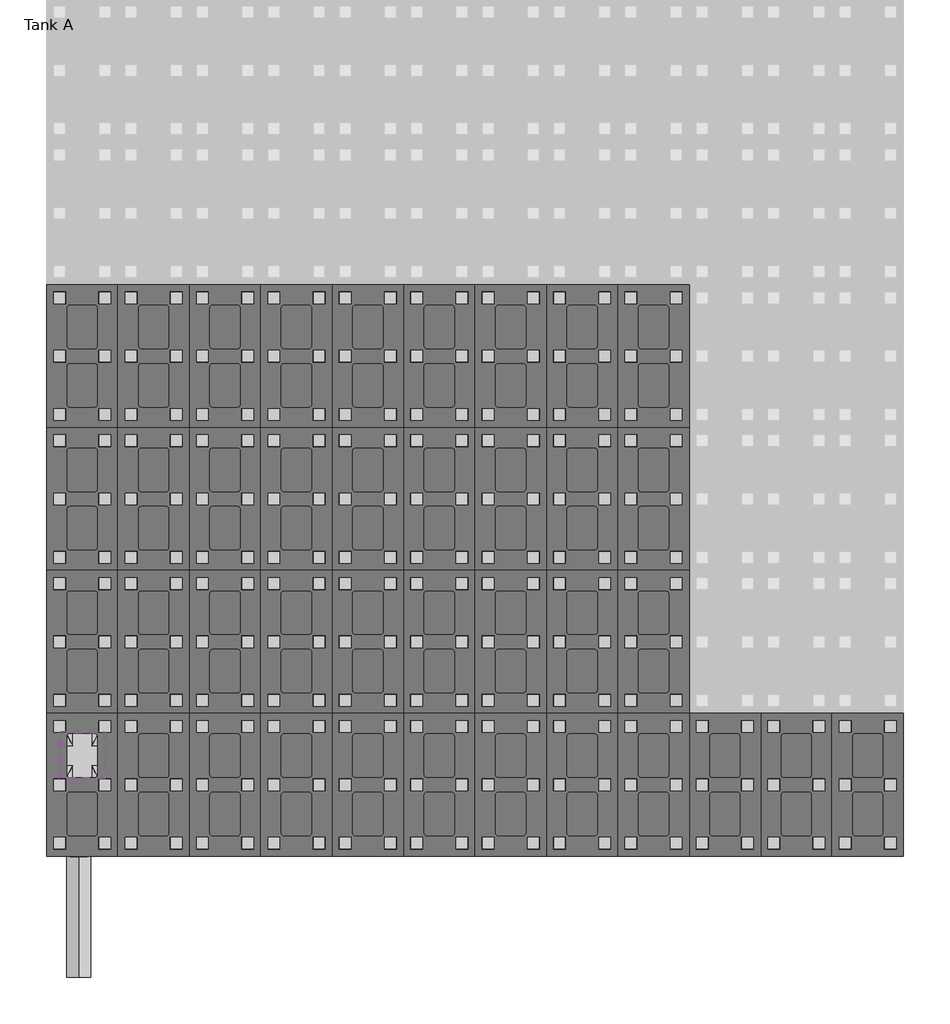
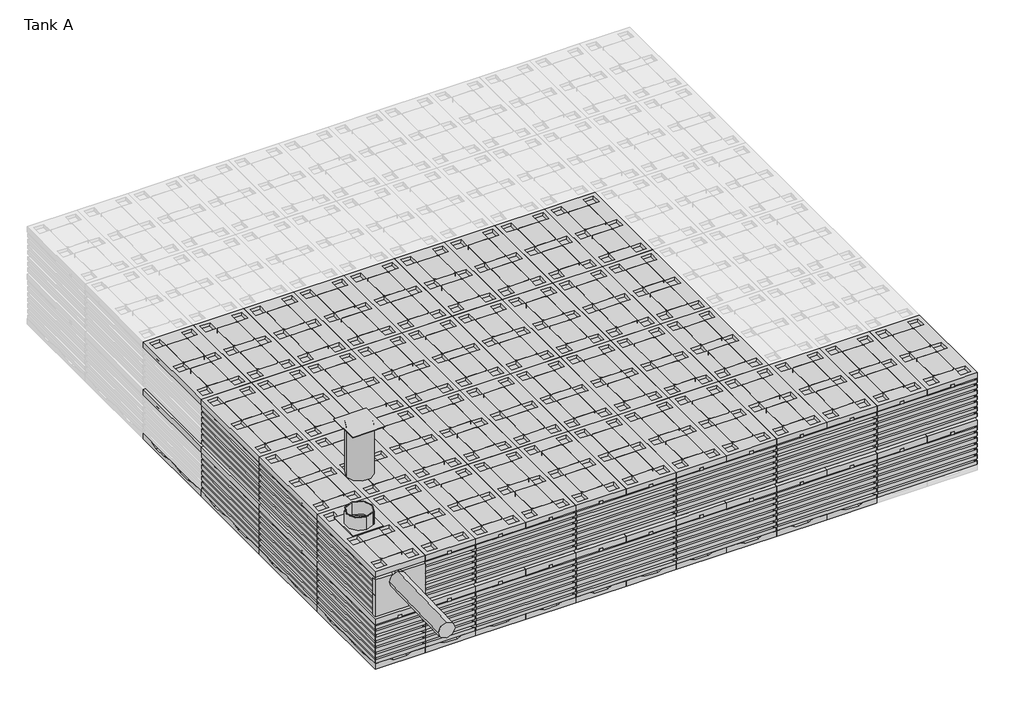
# One storey, part 1 of 6: 137 unitary equipment elements, 2 pipe fittings, 1 pipe segment.
"""IFC4 building model written with IfcOpenShell, lengths in millimetres."""

from ifc_helpers import new_model, si_unit, point, frame, frame_2d, origin, place, context, project, spatial, circle_curve, trimmed, segment, composite_curve, outline, extrude, transform, mapped, element, save
from components import sx315_telescopic_cover_with_d400_grating_073f188a, std_29941be0, closed_bottom_plate_7d425a97, std_f31acf44, std_0451be0c, std_7f29cd48, std_9ab658ca, std_d7962c01

model = new_model("IFC4")

# Units and contexts
model_context = context("Model", 3, world=origin())
ifc_project = project(units=[si_unit("LENGTHUNIT", "METRE", prefix="MILLI")], contexts=[model_context])

# Site, building, storey
site = spatial("IfcSite", under=ifc_project)
building = spatial("IfcBuilding", under=site)
storey = spatial("IfcBuildingStorey", under=building, Name="Tank A", Elevation=-2300.0)

# Pipe fittings
placement = place(None, origin())
sx315_telescopic_cover_with_d400_grating_shape = sx315_telescopic_cover_with_d400_grating_073f188a(model_context)
element("IfcPipeFitting", 1, ObjectType="Z_PIF_UN_Q-Bic_Plus_Telescopic_Square_Cover_Wavin_(nested) : SX315 Telescopic cover with D400 Grating", at=placement, inside=storey, context=model_context, shape_type="MappedRepresentation", body=[
    mapped(sx315_telescopic_cover_with_d400_grating_shape, transform((2786.051096, -3594.2220602, 200.0), x_axis=(1.0000000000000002, 0.0, 0.0), y_axis=(0.0, 1.0, 0.0), z_axis=(0.0, 0.0, 1.0000000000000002))),
])
std_shape = std_29941be0(model_context)
element("IfcPipeFitting", 2, ObjectType="Z_ME_UN_Q-Bic_Plus_Spigot_Plate_315_Wavin_(nested) : std", at=placement, inside=storey, context=model_context, shape_type="MappedRepresentation", body=[
    mapped(std_shape, transform((2606.051096, -3594.2220602, -1070.0), x_axis=(0.0, 1.0, 0.0), y_axis=(0.0, 0.0, 1.0000000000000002), z_axis=(1.0000000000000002, 0.0, 0.0))),
])

# Pipe segment
element("IfcPipeSegment", 3, ObjectType="Generic PVC", at=placement, inside=storey, context=model_context, shape_type="SweptSolid", body=[
    extrude(outline(composite_curve([segment(trimmed(circle_curve(frame_2d((0.0, -100.0)), 100.0), [point((-100.0, -100.0))], [point((0.0, 0.0))], False, "CARTESIAN"), True, "CONTINUOUS"), segment(trimmed(circle_curve(frame_2d((0.0, -100.0)), 100.0), [point((0.0, 0.0))], [point((100.0, -100.0))], False, "CARTESIAN"), True, "CONTINUOUS"), segment(trimmed(circle_curve(frame_2d((0.0, -100.0)), 100.0), [point((100.0, -100.0))], [point((0.0, -200.0))], False, "CARTESIAN"), True, "CONTINUOUS"), segment(trimmed(circle_curve(frame_2d((0.0, -100.0)), 100.0), [point((0.0, -200.0))], [point((-100.0, -100.0))], False, "CARTESIAN"), True, "CONTINUOUS")], self_intersect=False)), frame((2756.051096, -5451.4699932, -1383.5171191), z_axis=(0.0, 0.999644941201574, 0.026645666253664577), x_axis=(1.0, 0.0, 0.0)), (0.0, 0.0, 1.0), 1015.2729812),
])

# Unitary equipment
closed_bottom_plate_shape = closed_bottom_plate_7d425a97(model_context)
element("IfcUnitaryEquipment", 4, ObjectType="Z_ME_UN_Q-Bic_Plus_Bottom_Plate_Wavin_(nested) : Open bottom plate", at=placement, inside=storey, context=model_context, shape_type="MappedRepresentation", body=[
    mapped(closed_bottom_plate_shape, transform((8486.051096, -4439.2220602, -2230.0), x_axis=(0.0, 1.0, 0.0), y_axis=(-1.0000000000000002, 0.0, 0.0), z_axis=(0.0, 0.0, 1.0000000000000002))),
])
element("IfcUnitaryEquipment", 5, ObjectType="Z_ME_UN_Q-Bic_Plus_Bottom_Plate_Wavin_(nested) : Open bottom plate", at=placement, inside=storey, context=model_context, shape_type="MappedRepresentation", body=[
    mapped(closed_bottom_plate_shape, transform((7886.051096, -4439.2220602, -2230.0), x_axis=(0.0, 1.0, 0.0), y_axis=(-1.0000000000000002, 0.0, 0.0), z_axis=(0.0, 0.0, 1.0000000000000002))),
])
element("IfcUnitaryEquipment", 6, ObjectType="Z_ME_UN_Q-Bic_Plus_Bottom_Plate_Wavin_(nested) : Open bottom plate", at=placement, inside=storey, context=model_context, shape_type="MappedRepresentation", body=[
    mapped(closed_bottom_plate_shape, transform((7286.051096, -4439.2220602, -2230.0), x_axis=(0.0, 1.0, 0.0), y_axis=(-1.0000000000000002, 0.0, 0.0), z_axis=(0.0, 0.0, 1.0000000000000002))),
])
element("IfcUnitaryEquipment", 7, ObjectType="Z_ME_UN_Q-Bic_Plus_Bottom_Plate_Wavin_(nested) : Open bottom plate", at=placement, inside=storey, context=model_context, shape_type="MappedRepresentation", body=[
    mapped(closed_bottom_plate_shape, transform((6686.051096, -4439.2220602, -2230.0), x_axis=(0.0, 1.0, 0.0), y_axis=(-1.0000000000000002, 0.0, 0.0), z_axis=(0.0, 0.0, 1.0000000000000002))),
])
element("IfcUnitaryEquipment", 8, ObjectType="Z_ME_UN_Q-Bic_Plus_Bottom_Plate_Wavin_(nested) : Open bottom plate", at=placement, inside=storey, context=model_context, shape_type="MappedRepresentation", body=[
    mapped(closed_bottom_plate_shape, transform((6086.051096, -4439.2220602, -2230.0), x_axis=(0.0, 1.0, 0.0), y_axis=(-1.0000000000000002, 0.0, 0.0), z_axis=(0.0, 0.0, 1.0000000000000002))),
])
element("IfcUnitaryEquipment", 9, ObjectType="Z_ME_UN_Q-Bic_Plus_Bottom_Plate_Wavin_(nested) : Open bottom plate", at=placement, inside=storey, context=model_context, shape_type="MappedRepresentation", body=[
    mapped(closed_bottom_plate_shape, transform((5486.051096, -4439.2220602, -2230.0), x_axis=(0.0, 1.0, 0.0), y_axis=(-1.0000000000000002, 0.0, 0.0), z_axis=(0.0, 0.0, 1.0000000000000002))),
])
element("IfcUnitaryEquipment", 10, ObjectType="Z_ME_UN_Q-Bic_Plus_Bottom_Plate_Wavin_(nested) : Open bottom plate", at=placement, inside=storey, context=model_context, shape_type="MappedRepresentation", body=[
    mapped(closed_bottom_plate_shape, transform((4886.051096, -4439.2220602, -2230.0), x_axis=(0.0, 1.0, 0.0), y_axis=(-1.0000000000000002, 0.0, 0.0), z_axis=(0.0, 0.0, 1.0000000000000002))),
])
element("IfcUnitaryEquipment", 11, ObjectType="Z_ME_UN_Q-Bic_Plus_Bottom_Plate_Wavin_(nested) : Open bottom plate", at=placement, inside=storey, context=model_context, shape_type="MappedRepresentation", body=[
    mapped(closed_bottom_plate_shape, transform((4286.051096, -4439.2220602, -2230.0), x_axis=(0.0, 1.0, 0.0), y_axis=(-1.0000000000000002, 0.0, 0.0), z_axis=(0.0, 0.0, 1.0000000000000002))),
])
element("IfcUnitaryEquipment", 12, ObjectType="Z_ME_UN_Q-Bic_Plus_Bottom_Plate_Wavin_(nested) : Open bottom plate", at=placement, inside=storey, context=model_context, shape_type="MappedRepresentation", body=[
    mapped(closed_bottom_plate_shape, transform((3686.051096, -4439.2220602, -2230.0), x_axis=(0.0, 1.0, 0.0), y_axis=(-1.0000000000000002, 0.0, 0.0), z_axis=(0.0, 0.0, 1.0000000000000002))),
])
element("IfcUnitaryEquipment", 13, ObjectType="Z_ME_UN_Q-Bic_Plus_Bottom_Plate_Wavin_(nested) : Open bottom plate", at=placement, inside=storey, context=model_context, shape_type="MappedRepresentation", body=[
    mapped(closed_bottom_plate_shape, transform((7886.051096, -3239.2220602, -2230.0), x_axis=(0.0, 1.0, 0.0), y_axis=(-1.0000000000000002, 0.0, 0.0), z_axis=(0.0, 0.0, 1.0000000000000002))),
])
element("IfcUnitaryEquipment", 14, ObjectType="Z_ME_UN_Q-Bic_Plus_Bottom_Plate_Wavin_(nested) : Open bottom plate", at=placement, inside=storey, context=model_context, shape_type="MappedRepresentation", body=[
    mapped(closed_bottom_plate_shape, transform((7886.051096, -2039.2220602, -2230.0), x_axis=(0.0, 1.0, 0.0), y_axis=(-1.0000000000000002, 0.0, 0.0), z_axis=(0.0, 0.0, 1.0000000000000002))),
])
element("IfcUnitaryEquipment", 15, ObjectType="Z_ME_UN_Q-Bic_Plus_Bottom_Plate_Wavin_(nested) : Open bottom plate", at=placement, inside=storey, context=model_context, shape_type="MappedRepresentation", body=[
    mapped(closed_bottom_plate_shape, transform((7886.051096, -839.2220602, -2230.0), x_axis=(0.0, 1.0, 0.0), y_axis=(-1.0000000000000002, 0.0, 0.0), z_axis=(0.0, 0.0, 1.0000000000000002))),
])
element("IfcUnitaryEquipment", 16, ObjectType="Z_ME_UN_Q-Bic_Plus_Bottom_Plate_Wavin_(nested) : Open bottom plate", at=placement, inside=storey, context=model_context, shape_type="MappedRepresentation", body=[
    mapped(closed_bottom_plate_shape, transform((7286.051096, -3239.2220602, -2230.0), x_axis=(0.0, 1.0, 0.0), y_axis=(-1.0000000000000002, 0.0, 0.0), z_axis=(0.0, 0.0, 1.0000000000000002))),
])
element("IfcUnitaryEquipment", 17, ObjectType="Z_ME_UN_Q-Bic_Plus_Bottom_Plate_Wavin_(nested) : Open bottom plate", at=placement, inside=storey, context=model_context, shape_type="MappedRepresentation", body=[
    mapped(closed_bottom_plate_shape, transform((7286.051096, -2039.2220602, -2230.0), x_axis=(0.0, 1.0, 0.0), y_axis=(-1.0000000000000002, 0.0, 0.0), z_axis=(0.0, 0.0, 1.0000000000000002))),
])
element("IfcUnitaryEquipment", 18, ObjectType="Z_ME_UN_Q-Bic_Plus_Bottom_Plate_Wavin_(nested) : Open bottom plate", at=placement, inside=storey, context=model_context, shape_type="MappedRepresentation", body=[
    mapped(closed_bottom_plate_shape, transform((7286.051096, -839.2220602, -2230.0), x_axis=(0.0, 1.0, 0.0), y_axis=(-1.0000000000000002, 0.0, 0.0), z_axis=(0.0, 0.0, 1.0000000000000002))),
])
element("IfcUnitaryEquipment", 19, ObjectType="Z_ME_UN_Q-Bic_Plus_Bottom_Plate_Wavin_(nested) : Open bottom plate", at=placement, inside=storey, context=model_context, shape_type="MappedRepresentation", body=[
    mapped(closed_bottom_plate_shape, transform((6686.051096, -3239.2220602, -2230.0), x_axis=(0.0, 1.0, 0.0), y_axis=(-1.0000000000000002, 0.0, 0.0), z_axis=(0.0, 0.0, 1.0000000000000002))),
])
element("IfcUnitaryEquipment", 20, ObjectType="Z_ME_UN_Q-Bic_Plus_Bottom_Plate_Wavin_(nested) : Open bottom plate", at=placement, inside=storey, context=model_context, shape_type="MappedRepresentation", body=[
    mapped(closed_bottom_plate_shape, transform((6686.051096, -2039.2220602, -2230.0), x_axis=(0.0, 1.0, 0.0), y_axis=(-1.0000000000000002, 0.0, 0.0), z_axis=(0.0, 0.0, 1.0000000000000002))),
])
element("IfcUnitaryEquipment", 21, ObjectType="Z_ME_UN_Q-Bic_Plus_Bottom_Plate_Wavin_(nested) : Open bottom plate", at=placement, inside=storey, context=model_context, shape_type="MappedRepresentation", body=[
    mapped(closed_bottom_plate_shape, transform((6686.051096, -839.2220602, -2230.0), x_axis=(0.0, 1.0, 0.0), y_axis=(-1.0000000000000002, 0.0, 0.0), z_axis=(0.0, 0.0, 1.0000000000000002))),
])
element("IfcUnitaryEquipment", 22, ObjectType="Z_ME_UN_Q-Bic_Plus_Bottom_Plate_Wavin_(nested) : Open bottom plate", at=placement, inside=storey, context=model_context, shape_type="MappedRepresentation", body=[
    mapped(closed_bottom_plate_shape, transform((6086.051096, -3239.2220602, -2230.0), x_axis=(0.0, 1.0, 0.0), y_axis=(-1.0000000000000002, 0.0, 0.0), z_axis=(0.0, 0.0, 1.0000000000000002))),
])
element("IfcUnitaryEquipment", 23, ObjectType="Z_ME_UN_Q-Bic_Plus_Bottom_Plate_Wavin_(nested) : Open bottom plate", at=placement, inside=storey, context=model_context, shape_type="MappedRepresentation", body=[
    mapped(closed_bottom_plate_shape, transform((6086.051096, -2039.2220602, -2230.0), x_axis=(0.0, 1.0, 0.0), y_axis=(-1.0000000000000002, 0.0, 0.0), z_axis=(0.0, 0.0, 1.0000000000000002))),
])
element("IfcUnitaryEquipment", 24, ObjectType="Z_ME_UN_Q-Bic_Plus_Bottom_Plate_Wavin_(nested) : Open bottom plate", at=placement, inside=storey, context=model_context, shape_type="MappedRepresentation", body=[
    mapped(closed_bottom_plate_shape, transform((6086.051096, -839.2220602, -2230.0), x_axis=(0.0, 1.0, 0.0), y_axis=(-1.0000000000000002, 0.0, 0.0), z_axis=(0.0, 0.0, 1.0000000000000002))),
])
element("IfcUnitaryEquipment", 25, ObjectType="Z_ME_UN_Q-Bic_Plus_Bottom_Plate_Wavin_(nested) : Open bottom plate", at=placement, inside=storey, context=model_context, shape_type="MappedRepresentation", body=[
    mapped(closed_bottom_plate_shape, transform((5486.051096, -3239.2220602, -2230.0), x_axis=(0.0, 1.0, 0.0), y_axis=(-1.0000000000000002, 0.0, 0.0), z_axis=(0.0, 0.0, 1.0000000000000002))),
])
element("IfcUnitaryEquipment", 26, ObjectType="Z_ME_UN_Q-Bic_Plus_Bottom_Plate_Wavin_(nested) : Open bottom plate", at=placement, inside=storey, context=model_context, shape_type="MappedRepresentation", body=[
    mapped(closed_bottom_plate_shape, transform((5486.051096, -2039.2220602, -2230.0), x_axis=(0.0, 1.0, 0.0), y_axis=(-1.0000000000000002, 0.0, 0.0), z_axis=(0.0, 0.0, 1.0000000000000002))),
])
element("IfcUnitaryEquipment", 27, ObjectType="Z_ME_UN_Q-Bic_Plus_Bottom_Plate_Wavin_(nested) : Open bottom plate", at=placement, inside=storey, context=model_context, shape_type="MappedRepresentation", body=[
    mapped(closed_bottom_plate_shape, transform((5486.051096, -839.2220602, -2230.0), x_axis=(0.0, 1.0, 0.0), y_axis=(-1.0000000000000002, 0.0, 0.0), z_axis=(0.0, 0.0, 1.0000000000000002))),
])
element("IfcUnitaryEquipment", 28, ObjectType="Z_ME_UN_Q-Bic_Plus_Bottom_Plate_Wavin_(nested) : Open bottom plate", at=placement, inside=storey, context=model_context, shape_type="MappedRepresentation", body=[
    mapped(closed_bottom_plate_shape, transform((4886.051096, -3239.2220602, -2230.0), x_axis=(0.0, 1.0, 0.0), y_axis=(-1.0000000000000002, 0.0, 0.0), z_axis=(0.0, 0.0, 1.0000000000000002))),
])
element("IfcUnitaryEquipment", 29, ObjectType="Z_ME_UN_Q-Bic_Plus_Bottom_Plate_Wavin_(nested) : Open bottom plate", at=placement, inside=storey, context=model_context, shape_type="MappedRepresentation", body=[
    mapped(closed_bottom_plate_shape, transform((4886.051096, -2039.2220602, -2230.0), x_axis=(0.0, 1.0, 0.0), y_axis=(-1.0000000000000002, 0.0, 0.0), z_axis=(0.0, 0.0, 1.0000000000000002))),
])
element("IfcUnitaryEquipment", 30, ObjectType="Z_ME_UN_Q-Bic_Plus_Bottom_Plate_Wavin_(nested) : Open bottom plate", at=placement, inside=storey, context=model_context, shape_type="MappedRepresentation", body=[
    mapped(closed_bottom_plate_shape, transform((4886.051096, -839.2220602, -2230.0), x_axis=(0.0, 1.0, 0.0), y_axis=(-1.0000000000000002, 0.0, 0.0), z_axis=(0.0, 0.0, 1.0000000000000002))),
])
element("IfcUnitaryEquipment", 31, ObjectType="Z_ME_UN_Q-Bic_Plus_Bottom_Plate_Wavin_(nested) : Open bottom plate", at=placement, inside=storey, context=model_context, shape_type="MappedRepresentation", body=[
    mapped(closed_bottom_plate_shape, transform((4286.051096, -3239.2220602, -2230.0), x_axis=(0.0, 1.0, 0.0), y_axis=(-1.0000000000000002, 0.0, 0.0), z_axis=(0.0, 0.0, 1.0000000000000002))),
])
element("IfcUnitaryEquipment", 32, ObjectType="Z_ME_UN_Q-Bic_Plus_Bottom_Plate_Wavin_(nested) : Open bottom plate", at=placement, inside=storey, context=model_context, shape_type="MappedRepresentation", body=[
    mapped(closed_bottom_plate_shape, transform((4286.051096, -2039.2220602, -2230.0), x_axis=(0.0, 1.0, 0.0), y_axis=(-1.0000000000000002, 0.0, 0.0), z_axis=(0.0, 0.0, 1.0000000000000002))),
])
element("IfcUnitaryEquipment", 33, ObjectType="Z_ME_UN_Q-Bic_Plus_Bottom_Plate_Wavin_(nested) : Open bottom plate", at=placement, inside=storey, context=model_context, shape_type="MappedRepresentation", body=[
    mapped(closed_bottom_plate_shape, transform((4286.051096, -839.2220602, -2230.0), x_axis=(0.0, 1.0, 0.0), y_axis=(-1.0000000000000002, 0.0, 0.0), z_axis=(0.0, 0.0, 1.0000000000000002))),
])
element("IfcUnitaryEquipment", 34, ObjectType="Z_ME_UN_Q-Bic_Plus_Bottom_Plate_Wavin_(nested) : Open bottom plate", at=placement, inside=storey, context=model_context, shape_type="MappedRepresentation", body=[
    mapped(closed_bottom_plate_shape, transform((3686.051096, -2039.2220602, -2230.0), x_axis=(0.0, 1.0, 0.0), y_axis=(-1.0000000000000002, 0.0, 0.0), z_axis=(0.0, 0.0, 1.0000000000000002))),
])
element("IfcUnitaryEquipment", 35, ObjectType="Z_ME_UN_Q-Bic_Plus_Bottom_Plate_Wavin_(nested) : Open bottom plate", at=placement, inside=storey, context=model_context, shape_type="MappedRepresentation", body=[
    mapped(closed_bottom_plate_shape, transform((3686.051096, -839.2220602, -2230.0), x_axis=(0.0, 1.0, 0.0), y_axis=(-1.0000000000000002, 0.0, 0.0), z_axis=(0.0, 0.0, 1.0000000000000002))),
])
element("IfcUnitaryEquipment", 36, ObjectType="Z_ME_UN_Q-Bic_Plus_Bottom_Plate_Wavin_(nested) : Open bottom plate", at=placement, inside=storey, context=model_context, shape_type="MappedRepresentation", body=[
    mapped(closed_bottom_plate_shape, transform((3086.051096, -3239.2220602, -2230.0), x_axis=(0.0, 1.0, 0.0), y_axis=(-1.0000000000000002, 0.0, 0.0), z_axis=(0.0, 0.0, 1.0000000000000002))),
])
element("IfcUnitaryEquipment", 37, ObjectType="Z_ME_UN_Q-Bic_Plus_Bottom_Plate_Wavin_(nested) : Open bottom plate", at=placement, inside=storey, context=model_context, shape_type="MappedRepresentation", body=[
    mapped(closed_bottom_plate_shape, transform((3086.051096, -2039.2220602, -2230.0), x_axis=(0.0, 1.0, 0.0), y_axis=(-1.0000000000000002, 0.0, 0.0), z_axis=(0.0, 0.0, 1.0000000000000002))),
])
element("IfcUnitaryEquipment", 38, ObjectType="Z_ME_UN_Q-Bic_Plus_Bottom_Plate_Wavin_(nested) : Open bottom plate", at=placement, inside=storey, context=model_context, shape_type="MappedRepresentation", body=[
    mapped(closed_bottom_plate_shape, transform((3086.051096, -839.2220602, -2230.0), x_axis=(0.0, 1.0, 0.0), y_axis=(-1.0000000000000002, 0.0, 0.0), z_axis=(0.0, 0.0, 1.0000000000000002))),
])
element("IfcUnitaryEquipment", 39, ObjectType="Z_ME_UN_Q-Bic_Plus_Bottom_Plate_Wavin_(nested) : Open bottom plate", at=placement, inside=storey, context=model_context, shape_type="MappedRepresentation", body=[
    mapped(closed_bottom_plate_shape, transform((3686.051096, -3239.2220602, -2230.0), x_axis=(0.0, 1.0, 0.0), y_axis=(-1.0000000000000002, 0.0, 0.0), z_axis=(0.0, 0.0, 1.0000000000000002))),
])
element("IfcUnitaryEquipment", 40, ObjectType="Z_ME_UN_Q-Bic_Plus_Bottom_Plate_Wavin_(nested) : Open bottom plate", at=placement, inside=storey, context=model_context, shape_type="MappedRepresentation", body=[
    mapped(closed_bottom_plate_shape, transform((3086.051096, -4439.2220602, -2230.0), x_axis=(0.0, 1.0, 0.0), y_axis=(-1.0000000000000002, 0.0, 0.0), z_axis=(0.0, 0.0, 1.0000000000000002))),
])
std_2_shape = std_f31acf44(model_context)
element("IfcUnitaryEquipment", 41, ObjectType="Z_ME_UN_Q-Bic_Plus_Lateral_Side_Plate_Wavin_(nested) : std", at=placement, inside=storey, context=model_context, shape_type="MappedRepresentation", body=[
    mapped(std_2_shape, transform((6086.051096, -4439.2220602, -2330.0), x_axis=(1.0, 0.0, 0.0), y_axis=(0.0, 1.0, 0.0), z_axis=(0.0, 0.0, 1.0))),
])
element("IfcUnitaryEquipment", 42, ObjectType="Z_ME_UN_Q-Bic_Plus_Lateral_Side_Plate_Wavin_(nested) : std", at=placement, inside=storey, context=model_context, shape_type="MappedRepresentation", body=[
    mapped(std_2_shape, transform((6086.051096, -4439.2220602, -1730.0), x_axis=(1.0, 0.0, 0.0), y_axis=(0.0, 1.0, 0.0), z_axis=(0.0, 0.0, 1.0))),
])
element("IfcUnitaryEquipment", 43, ObjectType="Z_ME_UN_Q-Bic_Plus_Lateral_Side_Plate_Wavin_(nested) : std", at=placement, inside=storey, context=model_context, shape_type="MappedRepresentation", body=[
    mapped(std_2_shape, transform((4886.051096, -4439.2220602, -2330.0), x_axis=(1.0, 0.0, 0.0), y_axis=(0.0, 1.0, 0.0), z_axis=(0.0, 0.0, 1.0))),
])
element("IfcUnitaryEquipment", 44, ObjectType="Z_ME_UN_Q-Bic_Plus_Lateral_Side_Plate_Wavin_(nested) : std", at=placement, inside=storey, context=model_context, shape_type="MappedRepresentation", body=[
    mapped(std_2_shape, transform((4886.051096, -4439.2220602, -1730.0), x_axis=(1.0, 0.0, 0.0), y_axis=(0.0, 1.0, 0.0), z_axis=(0.0, 0.0, 1.0))),
])
element("IfcUnitaryEquipment", 45, ObjectType="Z_ME_UN_Q-Bic_Plus_Lateral_Side_Plate_Wavin_(nested) : std", at=placement, inside=storey, context=model_context, shape_type="MappedRepresentation", body=[
    mapped(std_2_shape, transform((3686.051096, -4439.2220602, -2330.0), x_axis=(1.0, 0.0, 0.0), y_axis=(0.0, 1.0, 0.0), z_axis=(0.0, 0.0, 1.0))),
])
element("IfcUnitaryEquipment", 46, ObjectType="Z_ME_UN_Q-Bic_Plus_Lateral_Side_Plate_Wavin_(nested) : std", at=placement, inside=storey, context=model_context, shape_type="MappedRepresentation", body=[
    mapped(std_2_shape, transform((3686.051096, -4439.2220602, -1730.0), x_axis=(1.0, 0.0, 0.0), y_axis=(0.0, 1.0, 0.0), z_axis=(0.0, 0.0, 1.0))),
])
element("IfcUnitaryEquipment", 47, ObjectType="Z_ME_UN_Q-Bic_Plus_Lateral_Side_Plate_Wavin_(nested) : std", at=placement, inside=storey, context=model_context, shape_type="MappedRepresentation", body=[
    mapped(std_2_shape, transform((9686.051096, -4439.2220602, -2330.0), x_axis=(0.0, 1.0000000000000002, 0.0), y_axis=(-1.0000000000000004, 0.0, 0.0), z_axis=(0.0, 0.0, 1.0000000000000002))),
])
element("IfcUnitaryEquipment", 48, ObjectType="Z_ME_UN_Q-Bic_Plus_Lateral_Side_Plate_Wavin_(nested) : std", at=placement, inside=storey, context=model_context, shape_type="MappedRepresentation", body=[
    mapped(std_2_shape, transform((9686.051096, -4439.2220602, -1730.0), x_axis=(0.0, 1.0000000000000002, 0.0), y_axis=(-1.0000000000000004, 0.0, 0.0), z_axis=(0.0, 0.0, 1.0000000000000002))),
])
element("IfcUnitaryEquipment", 49, ObjectType="Z_ME_UN_Q-Bic_Plus_Lateral_Side_Plate_Wavin_(nested) : std", at=placement, inside=storey, context=model_context, shape_type="MappedRepresentation", body=[
    mapped(std_2_shape, transform((2486.051096, -839.2220602, -2330.0), x_axis=(0.0, -1.0000000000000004, 0.0), y_axis=(1.0000000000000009, 0.0, 0.0), z_axis=(0.0, 0.0, 1.0000000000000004))),
])
element("IfcUnitaryEquipment", 50, ObjectType="Z_ME_UN_Q-Bic_Plus_Lateral_Side_Plate_Wavin_(nested) : std", at=placement, inside=storey, context=model_context, shape_type="MappedRepresentation", body=[
    mapped(std_2_shape, transform((2486.051096, -839.2220602, -1730.0), x_axis=(0.0, -1.0000000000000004, 0.0), y_axis=(1.0000000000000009, 0.0, 0.0), z_axis=(0.0, 0.0, 1.0000000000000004))),
])
element("IfcUnitaryEquipment", 51, ObjectType="Z_ME_UN_Q-Bic_Plus_Lateral_Side_Plate_Wavin_(nested) : std", at=placement, inside=storey, context=model_context, shape_type="MappedRepresentation", body=[
    mapped(std_2_shape, transform((7286.051096, -4439.2220602, -2330.0), x_axis=(1.0, 0.0, 0.0), y_axis=(0.0, 1.0, 0.0), z_axis=(0.0, 0.0, 1.0))),
])
element("IfcUnitaryEquipment", 52, ObjectType="Z_ME_UN_Q-Bic_Plus_Lateral_Side_Plate_Wavin_(nested) : std", at=placement, inside=storey, context=model_context, shape_type="MappedRepresentation", body=[
    mapped(std_2_shape, transform((7286.051096, -4439.2220602, -1730.0), x_axis=(1.0, 0.0, 0.0), y_axis=(0.0, 1.0, 0.0), z_axis=(0.0, 0.0, 1.0))),
])
element("IfcUnitaryEquipment", 53, ObjectType="Z_ME_UN_Q-Bic_Plus_Lateral_Side_Plate_Wavin_(nested) : std", at=placement, inside=storey, context=model_context, shape_type="MappedRepresentation", body=[
    mapped(std_2_shape, transform((8486.051096, -4439.2220602, -2330.0), x_axis=(1.0, 0.0, 0.0), y_axis=(0.0, 1.0, 0.0), z_axis=(0.0, 0.0, 1.0))),
])
element("IfcUnitaryEquipment", 54, ObjectType="Z_ME_UN_Q-Bic_Plus_Lateral_Side_Plate_Wavin_(nested) : std", at=placement, inside=storey, context=model_context, shape_type="MappedRepresentation", body=[
    mapped(std_2_shape, transform((8486.051096, -4439.2220602, -1730.0), x_axis=(1.0, 0.0, 0.0), y_axis=(0.0, 1.0, 0.0), z_axis=(0.0, 0.0, 1.0))),
])
element("IfcUnitaryEquipment", 55, ObjectType="Z_ME_UN_Q-Bic_Plus_Lateral_Side_Plate_Wavin_(nested) : std", at=placement, inside=storey, context=model_context, shape_type="MappedRepresentation", body=[
    mapped(std_2_shape, transform((2486.051096, -2039.2220602, -2330.0), x_axis=(0.0, -1.0000000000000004, 0.0), y_axis=(1.0000000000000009, 0.0, 0.0), z_axis=(0.0, 0.0, 1.0000000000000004))),
])
element("IfcUnitaryEquipment", 56, ObjectType="Z_ME_UN_Q-Bic_Plus_Lateral_Side_Plate_Wavin_(nested) : std", at=placement, inside=storey, context=model_context, shape_type="MappedRepresentation", body=[
    mapped(std_2_shape, transform((2486.051096, -2039.2220602, -1730.0), x_axis=(0.0, -1.0000000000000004, 0.0), y_axis=(1.0000000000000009, 0.0, 0.0), z_axis=(0.0, 0.0, 1.0000000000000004))),
])
element("IfcUnitaryEquipment", 57, ObjectType="Z_ME_UN_Q-Bic_Plus_Lateral_Side_Plate_Wavin_(nested) : std", at=placement, inside=storey, context=model_context, shape_type="MappedRepresentation", body=[
    mapped(std_2_shape, transform((2486.051096, -3239.2220602, -2330.0), x_axis=(0.0, -1.0000000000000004, 0.0), y_axis=(1.0000000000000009, 0.0, 0.0), z_axis=(0.0, 0.0, 1.0000000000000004))),
])
element("IfcUnitaryEquipment", 58, ObjectType="Z_ME_UN_Q-Bic_Plus_Lateral_Side_Plate_Wavin_(nested) : std", at=placement, inside=storey, context=model_context, shape_type="MappedRepresentation", body=[
    mapped(std_2_shape, transform((2486.051096, -3239.2220602, -1730.0), x_axis=(0.0, -1.0000000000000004, 0.0), y_axis=(1.0000000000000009, 0.0, 0.0), z_axis=(0.0, 0.0, 1.0000000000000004))),
])
std_3_shape = std_0451be0c(model_context)
element("IfcUnitaryEquipment", 59, ObjectType="Z_ME_UN_Q-Bic_Plus_Lateral_Side_Plate_Wavin_(nested) : std", at=placement, inside=storey, context=model_context, shape_type="MappedRepresentation", body=[
    mapped(std_3_shape, transform((3078.051096, -4439.2220602, -1730.0), x_axis=(1.0, 0.0, 0.0), y_axis=(0.0, 1.0, 0.0), z_axis=(0.0, 0.0, 1.0))),
])
element("IfcUnitaryEquipment", 60, ObjectType="Z_ME_UN_Q-Bic_Plus_Lateral_Side_Plate_Wavin_(nested) : std", at=placement, inside=storey, context=model_context, shape_type="MappedRepresentation", body=[
    mapped(std_3_shape, transform((3078.051096, -4439.2220602, -2330.0), x_axis=(1.0, 0.0, 0.0), y_axis=(0.0, 1.0, 0.0), z_axis=(0.0, 0.0, 1.0))),
])
element("IfcUnitaryEquipment", 61, ObjectType="Z_ME_UN_Q-Bic_Plus_Lateral_Side_Plate_Wavin_(nested) : std", at=placement, inside=storey, context=model_context, shape_type="MappedRepresentation", body=[
    mapped(std_3_shape, transform((2486.051096, -4439.2220602, -2330.0), x_axis=(1.0, 0.0, 0.0), y_axis=(0.0, 1.0, 0.0), z_axis=(0.0, 0.0, 1.0))),
])
std_4_shape = std_7f29cd48(model_context)
element("IfcUnitaryEquipment", 62, ObjectType="Z_ME_UN_Q-Bic Plus_Infiltration_Unit_Wavin_(nested) : std", at=placement, inside=storey, context=model_context, shape_type="MappedRepresentation", body=[
    mapped(std_4_shape, transform((3086.051096, -4439.2220602, -1670.0), x_axis=(0.0, 1.0, 0.0), y_axis=(-1.0000000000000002, 0.0, 0.0), z_axis=(0.0, 0.0, 1.0000000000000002))),
])
element("IfcUnitaryEquipment", 63, ObjectType="Z_ME_UN_Q-Bic Plus_Infiltration_Unit_Wavin_(nested) : std", at=placement, inside=storey, context=model_context, shape_type="MappedRepresentation", body=[
    mapped(std_4_shape, transform((3086.051096, -4439.2220602, -2270.0), x_axis=(0.0, 1.0, 0.0), y_axis=(-1.0000000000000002, 0.0, 0.0), z_axis=(0.0, 0.0, 1.0000000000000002))),
])
std_5_shape = std_9ab658ca(model_context)
element("IfcUnitaryEquipment", 64, ObjectType="Z_ME_UN_Q-Bic_Plus_Connection_Plate_Wavin_(nested) : std", at=placement, inside=storey, context=model_context, shape_type="MappedRepresentation", body=[
    mapped(std_5_shape, transform((2486.051096, -4439.2220602, -1730.0), x_axis=(1.0, 0.0, 0.0), y_axis=(0.0, 1.0, 0.0), z_axis=(0.0, 0.0, 1.0))),
])
std_6_shape = std_d7962c01(model_context)
element("IfcUnitaryEquipment", 65, ObjectType="Z_ME_UN_Q-Bic Plus_Infiltration_Unit_Wavin_(nested) : std", at=placement, inside=storey, context=model_context, shape_type="MappedRepresentation", body=[
    mapped(std_6_shape, transform((9686.051096, -4439.2220602, -1670.0), x_axis=(0.0, 1.0000000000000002, 0.0), y_axis=(-1.0000000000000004, 0.0, 0.0), z_axis=(0.0, 0.0, 1.0000000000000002))),
])
element("IfcUnitaryEquipment", 66, ObjectType="Z_ME_UN_Q-Bic Plus_Infiltration_Unit_Wavin_(nested) : std", at=placement, inside=storey, context=model_context, shape_type="MappedRepresentation", body=[
    mapped(std_6_shape, transform((9686.051096, -4439.2220602, -2270.0), x_axis=(0.0, 1.0000000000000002, 0.0), y_axis=(-1.0000000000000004, 0.0, 0.0), z_axis=(0.0, 0.0, 1.0000000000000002))),
])
element("IfcUnitaryEquipment", 67, ObjectType="Z_ME_UN_Q-Bic Plus_Infiltration_Unit_Wavin_(nested) : std", at=placement, inside=storey, context=model_context, shape_type="MappedRepresentation", body=[
    mapped(std_6_shape, transform((9086.051096, -4439.2220602, -1670.0), x_axis=(0.0, 1.0, 0.0), y_axis=(-1.0000000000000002, 0.0, 0.0), z_axis=(0.0, 0.0, 1.0000000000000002))),
])
element("IfcUnitaryEquipment", 68, ObjectType="Z_ME_UN_Q-Bic Plus_Infiltration_Unit_Wavin_(nested) : std", at=placement, inside=storey, context=model_context, shape_type="MappedRepresentation", body=[
    mapped(std_6_shape, transform((9086.051096, -4439.2220602, -2270.0), x_axis=(0.0, 1.0, 0.0), y_axis=(-1.0000000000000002, 0.0, 0.0), z_axis=(0.0, 0.0, 1.0000000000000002))),
])
element("IfcUnitaryEquipment", 69, ObjectType="Z_ME_UN_Q-Bic Plus_Infiltration_Unit_Wavin_(nested) : std", at=placement, inside=storey, context=model_context, shape_type="MappedRepresentation", body=[
    mapped(std_6_shape, transform((8486.051096, -4439.2220602, -1670.0), x_axis=(0.0, 1.0, 0.0), y_axis=(-1.0000000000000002, 0.0, 0.0), z_axis=(0.0, 0.0, 1.0000000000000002))),
])
element("IfcUnitaryEquipment", 70, ObjectType="Z_ME_UN_Q-Bic Plus_Infiltration_Unit_Wavin_(nested) : std", at=placement, inside=storey, context=model_context, shape_type="MappedRepresentation", body=[
    mapped(std_6_shape, transform((8486.051096, -4439.2220602, -2270.0), x_axis=(0.0, 1.0, 0.0), y_axis=(-1.0000000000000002, 0.0, 0.0), z_axis=(0.0, 0.0, 1.0000000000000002))),
])
element("IfcUnitaryEquipment", 71, ObjectType="Z_ME_UN_Q-Bic Plus_Infiltration_Unit_Wavin_(nested) : std", at=placement, inside=storey, context=model_context, shape_type="MappedRepresentation", body=[
    mapped(std_6_shape, transform((7886.051096, -4439.2220602, -1670.0), x_axis=(0.0, 1.0, 0.0), y_axis=(-1.0000000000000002, 0.0, 0.0), z_axis=(0.0, 0.0, 1.0000000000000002))),
])
element("IfcUnitaryEquipment", 72, ObjectType="Z_ME_UN_Q-Bic Plus_Infiltration_Unit_Wavin_(nested) : std", at=placement, inside=storey, context=model_context, shape_type="MappedRepresentation", body=[
    mapped(std_6_shape, transform((7886.051096, -4439.2220602, -2270.0), x_axis=(0.0, 1.0, 0.0), y_axis=(-1.0000000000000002, 0.0, 0.0), z_axis=(0.0, 0.0, 1.0000000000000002))),
])
element("IfcUnitaryEquipment", 73, ObjectType="Z_ME_UN_Q-Bic Plus_Infiltration_Unit_Wavin_(nested) : std", at=placement, inside=storey, context=model_context, shape_type="MappedRepresentation", body=[
    mapped(std_6_shape, transform((7286.051096, -4439.2220602, -1670.0), x_axis=(0.0, 1.0, 0.0), y_axis=(-1.0000000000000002, 0.0, 0.0), z_axis=(0.0, 0.0, 1.0000000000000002))),
])
element("IfcUnitaryEquipment", 74, ObjectType="Z_ME_UN_Q-Bic Plus_Infiltration_Unit_Wavin_(nested) : std", at=placement, inside=storey, context=model_context, shape_type="MappedRepresentation", body=[
    mapped(std_6_shape, transform((7286.051096, -4439.2220602, -2270.0), x_axis=(0.0, 1.0, 0.0), y_axis=(-1.0000000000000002, 0.0, 0.0), z_axis=(0.0, 0.0, 1.0000000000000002))),
])
element("IfcUnitaryEquipment", 75, ObjectType="Z_ME_UN_Q-Bic Plus_Infiltration_Unit_Wavin_(nested) : std", at=placement, inside=storey, context=model_context, shape_type="MappedRepresentation", body=[
    mapped(std_6_shape, transform((6686.051096, -4439.2220602, -1670.0), x_axis=(0.0, 1.0, 0.0), y_axis=(-1.0000000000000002, 0.0, 0.0), z_axis=(0.0, 0.0, 1.0000000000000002))),
])
element("IfcUnitaryEquipment", 76, ObjectType="Z_ME_UN_Q-Bic Plus_Infiltration_Unit_Wavin_(nested) : std", at=placement, inside=storey, context=model_context, shape_type="MappedRepresentation", body=[
    mapped(std_6_shape, transform((6686.051096, -4439.2220602, -2270.0), x_axis=(0.0, 1.0, 0.0), y_axis=(-1.0000000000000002, 0.0, 0.0), z_axis=(0.0, 0.0, 1.0000000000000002))),
])
element("IfcUnitaryEquipment", 77, ObjectType="Z_ME_UN_Q-Bic Plus_Infiltration_Unit_Wavin_(nested) : std", at=placement, inside=storey, context=model_context, shape_type="MappedRepresentation", body=[
    mapped(std_6_shape, transform((6086.051096, -4439.2220602, -1670.0), x_axis=(0.0, 1.0, 0.0), y_axis=(-1.0000000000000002, 0.0, 0.0), z_axis=(0.0, 0.0, 1.0000000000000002))),
])
element("IfcUnitaryEquipment", 78, ObjectType="Z_ME_UN_Q-Bic Plus_Infiltration_Unit_Wavin_(nested) : std", at=placement, inside=storey, context=model_context, shape_type="MappedRepresentation", body=[
    mapped(std_6_shape, transform((6086.051096, -4439.2220602, -2270.0), x_axis=(0.0, 1.0, 0.0), y_axis=(-1.0000000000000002, 0.0, 0.0), z_axis=(0.0, 0.0, 1.0000000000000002))),
])
element("IfcUnitaryEquipment", 79, ObjectType="Z_ME_UN_Q-Bic Plus_Infiltration_Unit_Wavin_(nested) : std", at=placement, inside=storey, context=model_context, shape_type="MappedRepresentation", body=[
    mapped(std_6_shape, transform((5486.051096, -4439.2220602, -1670.0), x_axis=(0.0, 1.0, 0.0), y_axis=(-1.0000000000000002, 0.0, 0.0), z_axis=(0.0, 0.0, 1.0000000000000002))),
])
element("IfcUnitaryEquipment", 80, ObjectType="Z_ME_UN_Q-Bic Plus_Infiltration_Unit_Wavin_(nested) : std", at=placement, inside=storey, context=model_context, shape_type="MappedRepresentation", body=[
    mapped(std_6_shape, transform((5486.051096, -4439.2220602, -2270.0), x_axis=(0.0, 1.0, 0.0), y_axis=(-1.0000000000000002, 0.0, 0.0), z_axis=(0.0, 0.0, 1.0000000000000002))),
])
element("IfcUnitaryEquipment", 81, ObjectType="Z_ME_UN_Q-Bic Plus_Infiltration_Unit_Wavin_(nested) : std", at=placement, inside=storey, context=model_context, shape_type="MappedRepresentation", body=[
    mapped(std_6_shape, transform((4886.051096, -4439.2220602, -1670.0), x_axis=(0.0, 1.0, 0.0), y_axis=(-1.0000000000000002, 0.0, 0.0), z_axis=(0.0, 0.0, 1.0000000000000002))),
])
element("IfcUnitaryEquipment", 82, ObjectType="Z_ME_UN_Q-Bic Plus_Infiltration_Unit_Wavin_(nested) : std", at=placement, inside=storey, context=model_context, shape_type="MappedRepresentation", body=[
    mapped(std_6_shape, transform((4886.051096, -4439.2220602, -2270.0), x_axis=(0.0, 1.0, 0.0), y_axis=(-1.0000000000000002, 0.0, 0.0), z_axis=(0.0, 0.0, 1.0000000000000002))),
])
element("IfcUnitaryEquipment", 83, ObjectType="Z_ME_UN_Q-Bic Plus_Infiltration_Unit_Wavin_(nested) : std", at=placement, inside=storey, context=model_context, shape_type="MappedRepresentation", body=[
    mapped(std_6_shape, transform((4286.051096, -4439.2220602, -1670.0), x_axis=(0.0, 1.0, 0.0), y_axis=(-1.0000000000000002, 0.0, 0.0), z_axis=(0.0, 0.0, 1.0000000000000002))),
])
element("IfcUnitaryEquipment", 84, ObjectType="Z_ME_UN_Q-Bic Plus_Infiltration_Unit_Wavin_(nested) : std", at=placement, inside=storey, context=model_context, shape_type="MappedRepresentation", body=[
    mapped(std_6_shape, transform((4286.051096, -4439.2220602, -2270.0), x_axis=(0.0, 1.0, 0.0), y_axis=(-1.0000000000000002, 0.0, 0.0), z_axis=(0.0, 0.0, 1.0000000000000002))),
])
element("IfcUnitaryEquipment", 85, ObjectType="Z_ME_UN_Q-Bic Plus_Infiltration_Unit_Wavin_(nested) : std", at=placement, inside=storey, context=model_context, shape_type="MappedRepresentation", body=[
    mapped(std_6_shape, transform((3686.051096, -4439.2220602, -1670.0), x_axis=(0.0, 1.0, 0.0), y_axis=(-1.0000000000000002, 0.0, 0.0), z_axis=(0.0, 0.0, 1.0000000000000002))),
])
element("IfcUnitaryEquipment", 86, ObjectType="Z_ME_UN_Q-Bic Plus_Infiltration_Unit_Wavin_(nested) : std", at=placement, inside=storey, context=model_context, shape_type="MappedRepresentation", body=[
    mapped(std_6_shape, transform((3686.051096, -4439.2220602, -2270.0), x_axis=(0.0, 1.0, 0.0), y_axis=(-1.0000000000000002, 0.0, 0.0), z_axis=(0.0, 0.0, 1.0000000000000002))),
])
element("IfcUnitaryEquipment", 87, ObjectType="Z_ME_UN_Q-Bic Plus_Infiltration_Unit_Wavin_(nested) : std", at=placement, inside=storey, context=model_context, shape_type="MappedRepresentation", body=[
    mapped(std_6_shape, transform((7886.051096, -3239.2220602, -1670.0), x_axis=(0.0, 1.0, 0.0), y_axis=(-1.0000000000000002, 0.0, 0.0), z_axis=(0.0, 0.0, 1.0000000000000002))),
])
element("IfcUnitaryEquipment", 88, ObjectType="Z_ME_UN_Q-Bic Plus_Infiltration_Unit_Wavin_(nested) : std", at=placement, inside=storey, context=model_context, shape_type="MappedRepresentation", body=[
    mapped(std_6_shape, transform((7886.051096, -3239.2220602, -2270.0), x_axis=(0.0, 1.0, 0.0), y_axis=(-1.0000000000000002, 0.0, 0.0), z_axis=(0.0, 0.0, 1.0000000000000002))),
])
element("IfcUnitaryEquipment", 89, ObjectType="Z_ME_UN_Q-Bic Plus_Infiltration_Unit_Wavin_(nested) : std", at=placement, inside=storey, context=model_context, shape_type="MappedRepresentation", body=[
    mapped(std_6_shape, transform((7886.051096, -2039.2220602, -1670.0), x_axis=(0.0, 1.0, 0.0), y_axis=(-1.0000000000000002, 0.0, 0.0), z_axis=(0.0, 0.0, 1.0000000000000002))),
])
element("IfcUnitaryEquipment", 90, ObjectType="Z_ME_UN_Q-Bic Plus_Infiltration_Unit_Wavin_(nested) : std", at=placement, inside=storey, context=model_context, shape_type="MappedRepresentation", body=[
    mapped(std_6_shape, transform((7886.051096, -2039.2220602, -2270.0), x_axis=(0.0, 1.0, 0.0), y_axis=(-1.0000000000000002, 0.0, 0.0), z_axis=(0.0, 0.0, 1.0000000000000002))),
])
element("IfcUnitaryEquipment", 91, ObjectType="Z_ME_UN_Q-Bic Plus_Infiltration_Unit_Wavin_(nested) : std", at=placement, inside=storey, context=model_context, shape_type="MappedRepresentation", body=[
    mapped(std_6_shape, transform((7886.051096, -839.2220602, -1670.0), x_axis=(0.0, 1.0, 0.0), y_axis=(-1.0000000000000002, 0.0, 0.0), z_axis=(0.0, 0.0, 1.0000000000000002))),
])
element("IfcUnitaryEquipment", 92, ObjectType="Z_ME_UN_Q-Bic Plus_Infiltration_Unit_Wavin_(nested) : std", at=placement, inside=storey, context=model_context, shape_type="MappedRepresentation", body=[
    mapped(std_6_shape, transform((7886.051096, -839.2220602, -2270.0), x_axis=(0.0, 1.0, 0.0), y_axis=(-1.0000000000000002, 0.0, 0.0), z_axis=(0.0, 0.0, 1.0000000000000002))),
])
element("IfcUnitaryEquipment", 93, ObjectType="Z_ME_UN_Q-Bic Plus_Infiltration_Unit_Wavin_(nested) : std", at=placement, inside=storey, context=model_context, shape_type="MappedRepresentation", body=[
    mapped(std_6_shape, transform((7286.051096, -3239.2220602, -1670.0), x_axis=(0.0, 1.0, 0.0), y_axis=(-1.0000000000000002, 0.0, 0.0), z_axis=(0.0, 0.0, 1.0000000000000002))),
])
element("IfcUnitaryEquipment", 94, ObjectType="Z_ME_UN_Q-Bic Plus_Infiltration_Unit_Wavin_(nested) : std", at=placement, inside=storey, context=model_context, shape_type="MappedRepresentation", body=[
    mapped(std_6_shape, transform((7286.051096, -3239.2220602, -2270.0), x_axis=(0.0, 1.0, 0.0), y_axis=(-1.0000000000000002, 0.0, 0.0), z_axis=(0.0, 0.0, 1.0000000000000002))),
])
element("IfcUnitaryEquipment", 95, ObjectType="Z_ME_UN_Q-Bic Plus_Infiltration_Unit_Wavin_(nested) : std", at=placement, inside=storey, context=model_context, shape_type="MappedRepresentation", body=[
    mapped(std_6_shape, transform((7286.051096, -2039.2220602, -1670.0), x_axis=(0.0, 1.0, 0.0), y_axis=(-1.0000000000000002, 0.0, 0.0), z_axis=(0.0, 0.0, 1.0000000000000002))),
])
element("IfcUnitaryEquipment", 96, ObjectType="Z_ME_UN_Q-Bic Plus_Infiltration_Unit_Wavin_(nested) : std", at=placement, inside=storey, context=model_context, shape_type="MappedRepresentation", body=[
    mapped(std_6_shape, transform((7286.051096, -2039.2220602, -2270.0), x_axis=(0.0, 1.0, 0.0), y_axis=(-1.0000000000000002, 0.0, 0.0), z_axis=(0.0, 0.0, 1.0000000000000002))),
])
element("IfcUnitaryEquipment", 97, ObjectType="Z_ME_UN_Q-Bic Plus_Infiltration_Unit_Wavin_(nested) : std", at=placement, inside=storey, context=model_context, shape_type="MappedRepresentation", body=[
    mapped(std_6_shape, transform((7286.051096, -839.2220602, -1670.0), x_axis=(0.0, 1.0, 0.0), y_axis=(-1.0000000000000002, 0.0, 0.0), z_axis=(0.0, 0.0, 1.0000000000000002))),
])
element("IfcUnitaryEquipment", 98, ObjectType="Z_ME_UN_Q-Bic Plus_Infiltration_Unit_Wavin_(nested) : std", at=placement, inside=storey, context=model_context, shape_type="MappedRepresentation", body=[
    mapped(std_6_shape, transform((7286.051096, -839.2220602, -2270.0), x_axis=(0.0, 1.0, 0.0), y_axis=(-1.0000000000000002, 0.0, 0.0), z_axis=(0.0, 0.0, 1.0000000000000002))),
])
element("IfcUnitaryEquipment", 99, ObjectType="Z_ME_UN_Q-Bic Plus_Infiltration_Unit_Wavin_(nested) : std", at=placement, inside=storey, context=model_context, shape_type="MappedRepresentation", body=[
    mapped(std_6_shape, transform((6686.051096, -3239.2220602, -1670.0), x_axis=(0.0, 1.0, 0.0), y_axis=(-1.0000000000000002, 0.0, 0.0), z_axis=(0.0, 0.0, 1.0000000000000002))),
])
element("IfcUnitaryEquipment", 100, ObjectType="Z_ME_UN_Q-Bic Plus_Infiltration_Unit_Wavin_(nested) : std", at=placement, inside=storey, context=model_context, shape_type="MappedRepresentation", body=[
    mapped(std_6_shape, transform((6686.051096, -3239.2220602, -2270.0), x_axis=(0.0, 1.0, 0.0), y_axis=(-1.0000000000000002, 0.0, 0.0), z_axis=(0.0, 0.0, 1.0000000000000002))),
])
element("IfcUnitaryEquipment", 101, ObjectType="Z_ME_UN_Q-Bic Plus_Infiltration_Unit_Wavin_(nested) : std", at=placement, inside=storey, context=model_context, shape_type="MappedRepresentation", body=[
    mapped(std_6_shape, transform((6686.051096, -2039.2220602, -1670.0), x_axis=(0.0, 1.0, 0.0), y_axis=(-1.0000000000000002, 0.0, 0.0), z_axis=(0.0, 0.0, 1.0000000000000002))),
])
element("IfcUnitaryEquipment", 102, ObjectType="Z_ME_UN_Q-Bic Plus_Infiltration_Unit_Wavin_(nested) : std", at=placement, inside=storey, context=model_context, shape_type="MappedRepresentation", body=[
    mapped(std_6_shape, transform((6686.051096, -2039.2220602, -2270.0), x_axis=(0.0, 1.0, 0.0), y_axis=(-1.0000000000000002, 0.0, 0.0), z_axis=(0.0, 0.0, 1.0000000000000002))),
])
element("IfcUnitaryEquipment", 103, ObjectType="Z_ME_UN_Q-Bic Plus_Infiltration_Unit_Wavin_(nested) : std", at=placement, inside=storey, context=model_context, shape_type="MappedRepresentation", body=[
    mapped(std_6_shape, transform((6686.051096, -839.2220602, -1670.0), x_axis=(0.0, 1.0, 0.0), y_axis=(-1.0000000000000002, 0.0, 0.0), z_axis=(0.0, 0.0, 1.0000000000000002))),
])
element("IfcUnitaryEquipment", 104, ObjectType="Z_ME_UN_Q-Bic Plus_Infiltration_Unit_Wavin_(nested) : std", at=placement, inside=storey, context=model_context, shape_type="MappedRepresentation", body=[
    mapped(std_6_shape, transform((6686.051096, -839.2220602, -2270.0), x_axis=(0.0, 1.0, 0.0), y_axis=(-1.0000000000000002, 0.0, 0.0), z_axis=(0.0, 0.0, 1.0000000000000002))),
])
element("IfcUnitaryEquipment", 105, ObjectType="Z_ME_UN_Q-Bic Plus_Infiltration_Unit_Wavin_(nested) : std", at=placement, inside=storey, context=model_context, shape_type="MappedRepresentation", body=[
    mapped(std_6_shape, transform((6086.051096, -3239.2220602, -1670.0), x_axis=(0.0, 1.0, 0.0), y_axis=(-1.0000000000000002, 0.0, 0.0), z_axis=(0.0, 0.0, 1.0000000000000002))),
])
element("IfcUnitaryEquipment", 106, ObjectType="Z_ME_UN_Q-Bic Plus_Infiltration_Unit_Wavin_(nested) : std", at=placement, inside=storey, context=model_context, shape_type="MappedRepresentation", body=[
    mapped(std_6_shape, transform((6086.051096, -3239.2220602, -2270.0), x_axis=(0.0, 1.0, 0.0), y_axis=(-1.0000000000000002, 0.0, 0.0), z_axis=(0.0, 0.0, 1.0000000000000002))),
])
element("IfcUnitaryEquipment", 107, ObjectType="Z_ME_UN_Q-Bic Plus_Infiltration_Unit_Wavin_(nested) : std", at=placement, inside=storey, context=model_context, shape_type="MappedRepresentation", body=[
    mapped(std_6_shape, transform((6086.051096, -2039.2220602, -1670.0), x_axis=(0.0, 1.0, 0.0), y_axis=(-1.0000000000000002, 0.0, 0.0), z_axis=(0.0, 0.0, 1.0000000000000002))),
])
element("IfcUnitaryEquipment", 108, ObjectType="Z_ME_UN_Q-Bic Plus_Infiltration_Unit_Wavin_(nested) : std", at=placement, inside=storey, context=model_context, shape_type="MappedRepresentation", body=[
    mapped(std_6_shape, transform((6086.051096, -2039.2220602, -2270.0), x_axis=(0.0, 1.0, 0.0), y_axis=(-1.0000000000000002, 0.0, 0.0), z_axis=(0.0, 0.0, 1.0000000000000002))),
])
element("IfcUnitaryEquipment", 109, ObjectType="Z_ME_UN_Q-Bic Plus_Infiltration_Unit_Wavin_(nested) : std", at=placement, inside=storey, context=model_context, shape_type="MappedRepresentation", body=[
    mapped(std_6_shape, transform((6086.051096, -839.2220602, -1670.0), x_axis=(0.0, 1.0, 0.0), y_axis=(-1.0000000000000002, 0.0, 0.0), z_axis=(0.0, 0.0, 1.0000000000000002))),
])
element("IfcUnitaryEquipment", 110, ObjectType="Z_ME_UN_Q-Bic Plus_Infiltration_Unit_Wavin_(nested) : std", at=placement, inside=storey, context=model_context, shape_type="MappedRepresentation", body=[
    mapped(std_6_shape, transform((6086.051096, -839.2220602, -2270.0), x_axis=(0.0, 1.0, 0.0), y_axis=(-1.0000000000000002, 0.0, 0.0), z_axis=(0.0, 0.0, 1.0000000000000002))),
])
element("IfcUnitaryEquipment", 111, ObjectType="Z_ME_UN_Q-Bic Plus_Infiltration_Unit_Wavin_(nested) : std", at=placement, inside=storey, context=model_context, shape_type="MappedRepresentation", body=[
    mapped(std_6_shape, transform((5486.051096, -3239.2220602, -1670.0), x_axis=(0.0, 1.0, 0.0), y_axis=(-1.0000000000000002, 0.0, 0.0), z_axis=(0.0, 0.0, 1.0000000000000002))),
])
element("IfcUnitaryEquipment", 112, ObjectType="Z_ME_UN_Q-Bic Plus_Infiltration_Unit_Wavin_(nested) : std", at=placement, inside=storey, context=model_context, shape_type="MappedRepresentation", body=[
    mapped(std_6_shape, transform((5486.051096, -3239.2220602, -2270.0), x_axis=(0.0, 1.0, 0.0), y_axis=(-1.0000000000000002, 0.0, 0.0), z_axis=(0.0, 0.0, 1.0000000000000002))),
])
element("IfcUnitaryEquipment", 113, ObjectType="Z_ME_UN_Q-Bic Plus_Infiltration_Unit_Wavin_(nested) : std", at=placement, inside=storey, context=model_context, shape_type="MappedRepresentation", body=[
    mapped(std_6_shape, transform((5486.051096, -2039.2220602, -1670.0), x_axis=(0.0, 1.0, 0.0), y_axis=(-1.0000000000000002, 0.0, 0.0), z_axis=(0.0, 0.0, 1.0000000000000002))),
])
element("IfcUnitaryEquipment", 114, ObjectType="Z_ME_UN_Q-Bic Plus_Infiltration_Unit_Wavin_(nested) : std", at=placement, inside=storey, context=model_context, shape_type="MappedRepresentation", body=[
    mapped(std_6_shape, transform((5486.051096, -2039.2220602, -2270.0), x_axis=(0.0, 1.0, 0.0), y_axis=(-1.0000000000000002, 0.0, 0.0), z_axis=(0.0, 0.0, 1.0000000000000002))),
])
element("IfcUnitaryEquipment", 115, ObjectType="Z_ME_UN_Q-Bic Plus_Infiltration_Unit_Wavin_(nested) : std", at=placement, inside=storey, context=model_context, shape_type="MappedRepresentation", body=[
    mapped(std_6_shape, transform((5486.051096, -839.2220602, -1670.0), x_axis=(0.0, 1.0, 0.0), y_axis=(-1.0000000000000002, 0.0, 0.0), z_axis=(0.0, 0.0, 1.0000000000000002))),
])
element("IfcUnitaryEquipment", 116, ObjectType="Z_ME_UN_Q-Bic Plus_Infiltration_Unit_Wavin_(nested) : std", at=placement, inside=storey, context=model_context, shape_type="MappedRepresentation", body=[
    mapped(std_6_shape, transform((5486.051096, -839.2220602, -2270.0), x_axis=(0.0, 1.0, 0.0), y_axis=(-1.0000000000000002, 0.0, 0.0), z_axis=(0.0, 0.0, 1.0000000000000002))),
])
element("IfcUnitaryEquipment", 117, ObjectType="Z_ME_UN_Q-Bic Plus_Infiltration_Unit_Wavin_(nested) : std", at=placement, inside=storey, context=model_context, shape_type="MappedRepresentation", body=[
    mapped(std_6_shape, transform((4886.051096, -3239.2220602, -1670.0), x_axis=(0.0, 1.0, 0.0), y_axis=(-1.0000000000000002, 0.0, 0.0), z_axis=(0.0, 0.0, 1.0000000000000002))),
])
element("IfcUnitaryEquipment", 118, ObjectType="Z_ME_UN_Q-Bic Plus_Infiltration_Unit_Wavin_(nested) : std", at=placement, inside=storey, context=model_context, shape_type="MappedRepresentation", body=[
    mapped(std_6_shape, transform((4886.051096, -3239.2220602, -2270.0), x_axis=(0.0, 1.0, 0.0), y_axis=(-1.0000000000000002, 0.0, 0.0), z_axis=(0.0, 0.0, 1.0000000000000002))),
])
element("IfcUnitaryEquipment", 119, ObjectType="Z_ME_UN_Q-Bic Plus_Infiltration_Unit_Wavin_(nested) : std", at=placement, inside=storey, context=model_context, shape_type="MappedRepresentation", body=[
    mapped(std_6_shape, transform((4886.051096, -2039.2220602, -1670.0), x_axis=(0.0, 1.0, 0.0), y_axis=(-1.0000000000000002, 0.0, 0.0), z_axis=(0.0, 0.0, 1.0000000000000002))),
])
element("IfcUnitaryEquipment", 120, ObjectType="Z_ME_UN_Q-Bic Plus_Infiltration_Unit_Wavin_(nested) : std", at=placement, inside=storey, context=model_context, shape_type="MappedRepresentation", body=[
    mapped(std_6_shape, transform((4886.051096, -2039.2220602, -2270.0), x_axis=(0.0, 1.0, 0.0), y_axis=(-1.0000000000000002, 0.0, 0.0), z_axis=(0.0, 0.0, 1.0000000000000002))),
])
element("IfcUnitaryEquipment", 121, ObjectType="Z_ME_UN_Q-Bic Plus_Infiltration_Unit_Wavin_(nested) : std", at=placement, inside=storey, context=model_context, shape_type="MappedRepresentation", body=[
    mapped(std_6_shape, transform((4886.051096, -839.2220602, -1670.0), x_axis=(0.0, 1.0, 0.0), y_axis=(-1.0000000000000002, 0.0, 0.0), z_axis=(0.0, 0.0, 1.0000000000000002))),
])
element("IfcUnitaryEquipment", 122, ObjectType="Z_ME_UN_Q-Bic Plus_Infiltration_Unit_Wavin_(nested) : std", at=placement, inside=storey, context=model_context, shape_type="MappedRepresentation", body=[
    mapped(std_6_shape, transform((4886.051096, -839.2220602, -2270.0), x_axis=(0.0, 1.0, 0.0), y_axis=(-1.0000000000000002, 0.0, 0.0), z_axis=(0.0, 0.0, 1.0000000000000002))),
])
element("IfcUnitaryEquipment", 123, ObjectType="Z_ME_UN_Q-Bic Plus_Infiltration_Unit_Wavin_(nested) : std", at=placement, inside=storey, context=model_context, shape_type="MappedRepresentation", body=[
    mapped(std_6_shape, transform((4286.051096, -3239.2220602, -1670.0), x_axis=(0.0, 1.0, 0.0), y_axis=(-1.0000000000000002, 0.0, 0.0), z_axis=(0.0, 0.0, 1.0000000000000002))),
])
element("IfcUnitaryEquipment", 124, ObjectType="Z_ME_UN_Q-Bic Plus_Infiltration_Unit_Wavin_(nested) : std", at=placement, inside=storey, context=model_context, shape_type="MappedRepresentation", body=[
    mapped(std_6_shape, transform((4286.051096, -3239.2220602, -2270.0), x_axis=(0.0, 1.0, 0.0), y_axis=(-1.0000000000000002, 0.0, 0.0), z_axis=(0.0, 0.0, 1.0000000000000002))),
])
element("IfcUnitaryEquipment", 125, ObjectType="Z_ME_UN_Q-Bic Plus_Infiltration_Unit_Wavin_(nested) : std", at=placement, inside=storey, context=model_context, shape_type="MappedRepresentation", body=[
    mapped(std_6_shape, transform((4286.051096, -2039.2220602, -1670.0), x_axis=(0.0, 1.0, 0.0), y_axis=(-1.0000000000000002, 0.0, 0.0), z_axis=(0.0, 0.0, 1.0000000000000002))),
])
element("IfcUnitaryEquipment", 126, ObjectType="Z_ME_UN_Q-Bic Plus_Infiltration_Unit_Wavin_(nested) : std", at=placement, inside=storey, context=model_context, shape_type="MappedRepresentation", body=[
    mapped(std_6_shape, transform((4286.051096, -2039.2220602, -2270.0), x_axis=(0.0, 1.0, 0.0), y_axis=(-1.0000000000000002, 0.0, 0.0), z_axis=(0.0, 0.0, 1.0000000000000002))),
])
element("IfcUnitaryEquipment", 127, ObjectType="Z_ME_UN_Q-Bic Plus_Infiltration_Unit_Wavin_(nested) : std", at=placement, inside=storey, context=model_context, shape_type="MappedRepresentation", body=[
    mapped(std_6_shape, transform((4286.051096, -839.2220602, -1670.0), x_axis=(0.0, 1.0, 0.0), y_axis=(-1.0000000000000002, 0.0, 0.0), z_axis=(0.0, 0.0, 1.0000000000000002))),
])
element("IfcUnitaryEquipment", 128, ObjectType="Z_ME_UN_Q-Bic Plus_Infiltration_Unit_Wavin_(nested) : std", at=placement, inside=storey, context=model_context, shape_type="MappedRepresentation", body=[
    mapped(std_6_shape, transform((4286.051096, -839.2220602, -2270.0), x_axis=(0.0, 1.0, 0.0), y_axis=(-1.0000000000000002, 0.0, 0.0), z_axis=(0.0, 0.0, 1.0000000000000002))),
])
element("IfcUnitaryEquipment", 129, ObjectType="Z_ME_UN_Q-Bic Plus_Infiltration_Unit_Wavin_(nested) : std", at=placement, inside=storey, context=model_context, shape_type="MappedRepresentation", body=[
    mapped(std_6_shape, transform((3686.051096, -3239.2220602, -1670.0), x_axis=(0.0, 1.0, 0.0), y_axis=(-1.0000000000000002, 0.0, 0.0), z_axis=(0.0, 0.0, 1.0000000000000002))),
])
element("IfcUnitaryEquipment", 130, ObjectType="Z_ME_UN_Q-Bic Plus_Infiltration_Unit_Wavin_(nested) : std", at=placement, inside=storey, context=model_context, shape_type="MappedRepresentation", body=[
    mapped(std_6_shape, transform((3686.051096, -3239.2220602, -2270.0), x_axis=(0.0, 1.0, 0.0), y_axis=(-1.0000000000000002, 0.0, 0.0), z_axis=(0.0, 0.0, 1.0000000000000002))),
])
element("IfcUnitaryEquipment", 131, ObjectType="Z_ME_UN_Q-Bic Plus_Infiltration_Unit_Wavin_(nested) : std", at=placement, inside=storey, context=model_context, shape_type="MappedRepresentation", body=[
    mapped(std_6_shape, transform((3686.051096, -2039.2220602, -1670.0), x_axis=(0.0, 1.0, 0.0), y_axis=(-1.0000000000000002, 0.0, 0.0), z_axis=(0.0, 0.0, 1.0000000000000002))),
])
element("IfcUnitaryEquipment", 132, ObjectType="Z_ME_UN_Q-Bic Plus_Infiltration_Unit_Wavin_(nested) : std", at=placement, inside=storey, context=model_context, shape_type="MappedRepresentation", body=[
    mapped(std_6_shape, transform((3686.051096, -2039.2220602, -2270.0), x_axis=(0.0, 1.0, 0.0), y_axis=(-1.0000000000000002, 0.0, 0.0), z_axis=(0.0, 0.0, 1.0000000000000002))),
])
element("IfcUnitaryEquipment", 133, ObjectType="Z_ME_UN_Q-Bic Plus_Infiltration_Unit_Wavin_(nested) : std", at=placement, inside=storey, context=model_context, shape_type="MappedRepresentation", body=[
    mapped(std_6_shape, transform((3686.051096, -839.2220602, -1670.0), x_axis=(0.0, 1.0, 0.0), y_axis=(-1.0000000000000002, 0.0, 0.0), z_axis=(0.0, 0.0, 1.0000000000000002))),
])
element("IfcUnitaryEquipment", 134, ObjectType="Z_ME_UN_Q-Bic Plus_Infiltration_Unit_Wavin_(nested) : std", at=placement, inside=storey, context=model_context, shape_type="MappedRepresentation", body=[
    mapped(std_6_shape, transform((3686.051096, -839.2220602, -2270.0), x_axis=(0.0, 1.0, 0.0), y_axis=(-1.0000000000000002, 0.0, 0.0), z_axis=(0.0, 0.0, 1.0000000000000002))),
])
element("IfcUnitaryEquipment", 135, ObjectType="Z_ME_UN_Q-Bic Plus_Infiltration_Unit_Wavin_(nested) : std", at=placement, inside=storey, context=model_context, shape_type="MappedRepresentation", body=[
    mapped(std_6_shape, transform((3086.051096, -3239.2220602, -1670.0), x_axis=(0.0, 1.0, 0.0), y_axis=(-1.0000000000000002, 0.0, 0.0), z_axis=(0.0, 0.0, 1.0000000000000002))),
])
element("IfcUnitaryEquipment", 136, ObjectType="Z_ME_UN_Q-Bic Plus_Infiltration_Unit_Wavin_(nested) : std", at=placement, inside=storey, context=model_context, shape_type="MappedRepresentation", body=[
    mapped(std_6_shape, transform((3086.051096, -3239.2220602, -2270.0), x_axis=(0.0, 1.0, 0.0), y_axis=(-1.0000000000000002, 0.0, 0.0), z_axis=(0.0, 0.0, 1.0000000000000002))),
])
element("IfcUnitaryEquipment", 137, ObjectType="Z_ME_UN_Q-Bic Plus_Infiltration_Unit_Wavin_(nested) : std", at=placement, inside=storey, context=model_context, shape_type="MappedRepresentation", body=[
    mapped(std_6_shape, transform((3086.051096, -2039.2220602, -1670.0), x_axis=(0.0, 1.0, 0.0), y_axis=(-1.0000000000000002, 0.0, 0.0), z_axis=(0.0, 0.0, 1.0000000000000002))),
])
element("IfcUnitaryEquipment", 138, ObjectType="Z_ME_UN_Q-Bic Plus_Infiltration_Unit_Wavin_(nested) : std", at=placement, inside=storey, context=model_context, shape_type="MappedRepresentation", body=[
    mapped(std_6_shape, transform((3086.051096, -2039.2220602, -2270.0), x_axis=(0.0, 1.0, 0.0), y_axis=(-1.0000000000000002, 0.0, 0.0), z_axis=(0.0, 0.0, 1.0000000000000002))),
])
element("IfcUnitaryEquipment", 139, ObjectType="Z_ME_UN_Q-Bic Plus_Infiltration_Unit_Wavin_(nested) : std", at=placement, inside=storey, context=model_context, shape_type="MappedRepresentation", body=[
    mapped(std_6_shape, transform((3086.051096, -839.2220602, -1670.0), x_axis=(0.0, 1.0, 0.0), y_axis=(-1.0000000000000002, 0.0, 0.0), z_axis=(0.0, 0.0, 1.0000000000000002))),
])
element("IfcUnitaryEquipment", 140, ObjectType="Z_ME_UN_Q-Bic Plus_Infiltration_Unit_Wavin_(nested) : std", at=placement, inside=storey, context=model_context, shape_type="MappedRepresentation", body=[
    mapped(std_6_shape, transform((3086.051096, -839.2220602, -2270.0), x_axis=(0.0, 1.0, 0.0), y_axis=(-1.0000000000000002, 0.0, 0.0), z_axis=(0.0, 0.0, 1.0000000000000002))),
])

save(model, "model.ifc")
